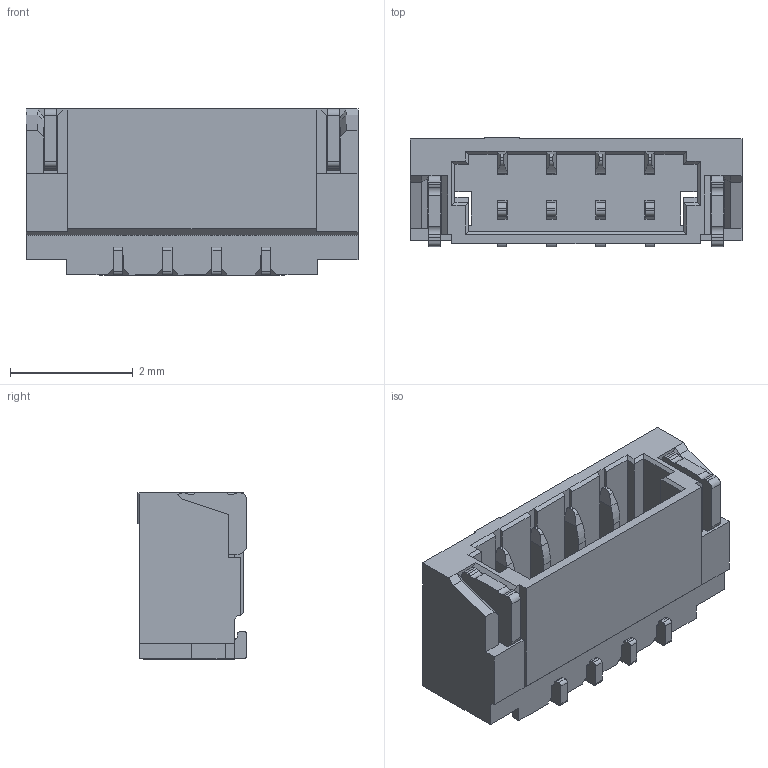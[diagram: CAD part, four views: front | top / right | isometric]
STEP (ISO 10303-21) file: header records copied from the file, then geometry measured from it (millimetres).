
FILE_DESCRIPTION((''),'2;1');
FILE_NAME('SCT0800WRS-04','2023-04-10T15:40:27',('Administrator'),(''),'CREO PARAMETRIC BY PTC INC, 2018050','CREO PARAMETRIC BY PTC INC, 2018050','');
FILE_SCHEMA(('CONFIG_CONTROL_DESIGN'));
Length unit declared in the file: millimetre
Products named in the file (1): SCT0800WRS-04
Bounding box: 5.4 x 1.78 x 2.7 mm (x, y, z)
Volume: 14.9 mm3; surface area: 104 mm2
Topology: 1 solids, 1 shells, 424 faces, 1317 edges, 848 vertices
Faces by surface type: plane 292, cylinder 132
Entity records: 14755 total; most frequent: CARTESIAN_POINT 2785, ORIENTED_EDGE 2634, DIRECTION 2371, EDGE_CURVE 1317, VECTOR 1043, LINE 1043, VERTEX_POINT 848, AXIS2_PLACEMENT_3D 664
